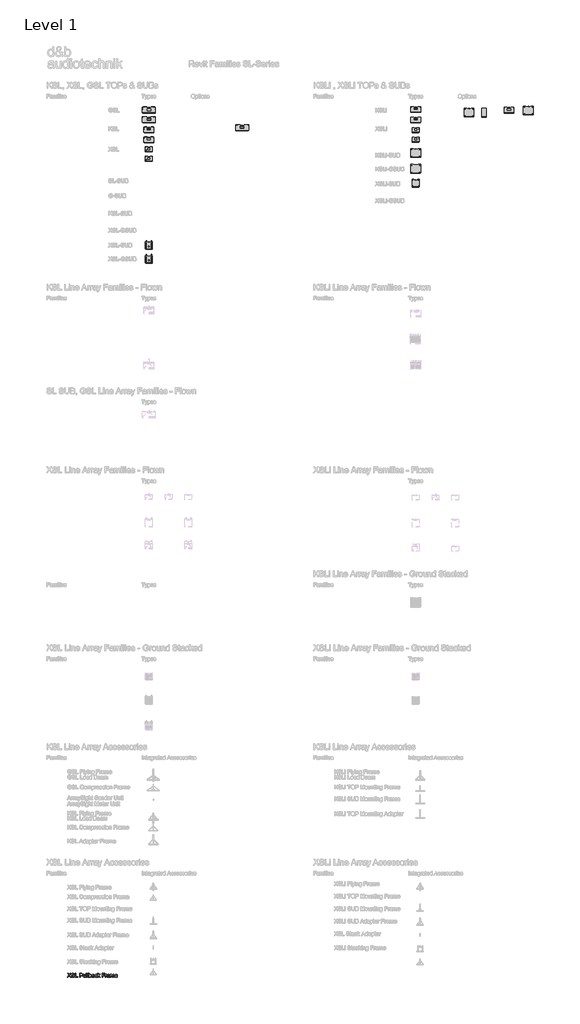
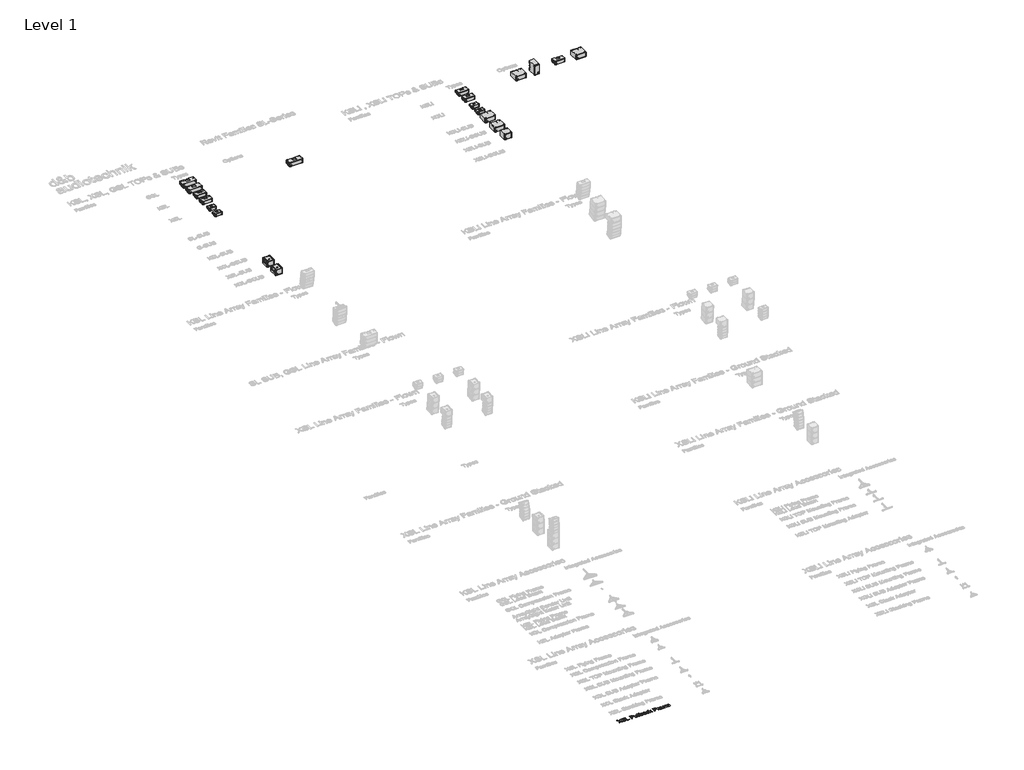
# One storey, part 4 of 52: 21 proxies.
"""IFC4 building model written with IfcOpenShell, lengths in millimetres."""

from ifc_helpers import new_model, si_unit, origin, origin_with_axes, place, context, project, spatial, polyline, outline, extrude, transform, mapped, element, save
from components import communication_devices_4245e99e, communication_devices_117acdfe, communication_devices_14464fff, communication_devices_1bfed97e, communication_devices_a2a8249f, communication_devices_7ae70bb6, communication_devices_f9809a49, communication_devices_84af1f5c, communication_devices_533f041e, communication_devices_2013cf00, communication_devices_46ae4256, communication_devices_b4759670, gsl12_12c20019, gsl12_814769ea, gsl12_07355197, ksl12_ca8f280e, ksl12_920ca955, ksl12_949d1a2c, xsl_sub_eb40c905, xsl_sub_1e621e3c, xsl_sub_a75d85bd, xsl12_895e49e3, xsl12_576bfbdb, xsl12_ee73a5ce

model = new_model("IFC4")

# Units and contexts
model_context = context("Model", 3, world=origin())
ifc_project = project(units=[si_unit("LENGTHUNIT", "METRE", prefix="MILLI")], contexts=[model_context])

# Site, building, storey
site = spatial("IfcSite", under=ifc_project)
building = spatial("IfcBuilding", under=site)
storey = spatial("IfcBuildingStorey", under=building, Name="Level 1", Elevation=0.0)

# Proxies
placement = place(None, origin())
communication_devices_shape = communication_devices_4245e99e(model_context)
communication_devices_2_shape = communication_devices_117acdfe(model_context)
communication_devices_3_shape = communication_devices_14464fff(model_context)
element("IfcBuildingElementProxy", 1, Name="d&b SL-Series XSLi : XSLi8", ObjectType="d&b SL-Series XSLi : XSLi8", at=placement, inside=storey, context=model_context, shape_type="MappedRepresentation", body=[
    mapped(communication_devices_shape, transform((15758.3565696, 14228.4736413, 0.0), x_axis=(1.0, 0.0, 0.0), y_axis=(0.0, 1.0, 0.0), z_axis=(0.0, 0.0, 1.0))),
    mapped(communication_devices_2_shape, transform((15758.3565696, 14228.4736413, 0.0), x_axis=(1.0, 0.0, 0.0), y_axis=(0.0, 1.0, 0.0), z_axis=(0.0, 0.0, 1.0))),
    mapped(communication_devices_3_shape, transform((15758.3565696, 14228.4736413, 0.0), x_axis=(1.0, 0.0, 0.0), y_axis=(0.0, 1.0, 0.0), z_axis=(0.0, 0.0, 1.0))),
])
element("IfcBuildingElementProxy", 2, Name="d&b SL-Series XSLi : XSLi12", ObjectType="d&b SL-Series XSLi : XSLi12", at=placement, inside=storey, context=model_context, shape_type="MappedRepresentation", body=[
    mapped(communication_devices_shape, transform((15758.3565696, 13267.0006751, 0.0), x_axis=(1.0, 0.0, 0.0), y_axis=(0.0, 1.0, 0.0), z_axis=(0.0, 0.0, 1.0))),
    mapped(communication_devices_2_shape, transform((15758.3565696, 13267.0006751, 0.0), x_axis=(1.0, 0.0, 0.0), y_axis=(0.0, 1.0, 0.0), z_axis=(0.0, 0.0, 1.0))),
    mapped(communication_devices_3_shape, transform((15758.3565696, 13267.0006751, 0.0), x_axis=(1.0, 0.0, 0.0), y_axis=(0.0, 1.0, 0.0), z_axis=(0.0, 0.0, 1.0))),
])
communication_devices_4_shape = communication_devices_1bfed97e(model_context)
element("IfcBuildingElementProxy", 3, Name="d&b SL-Series KSLi-SUB : KSLi-SUB", ObjectType="d&b SL-Series KSLi-SUB : KSLi-SUB", at=placement, inside=storey, context=model_context, shape_type="MappedRepresentation", body=[
    mapped(communication_devices_4_shape, transform((25158.3565696, 15906.3756327, 0.0), x_axis=(1.0, 0.0, 0.0), y_axis=(0.0, 1.0, 0.0), z_axis=(0.0, 0.0, 1.0))),
])
element("IfcBuildingElementProxy", 4, Name="d&b SL-Series KSLi-SUB : KSLi-SUB", ObjectType="d&b SL-Series KSLi-SUB : KSLi-SUB", at=placement, inside=storey, context=model_context, shape_type="MappedRepresentation", body=[
    mapped(communication_devices_4_shape, transform((19145.5333752, 15707.2506327, 0.0), x_axis=(1.0, 0.0, 0.0), y_axis=(0.0, 1.0, 0.0), z_axis=(0.0, 0.0, 1.0))),
])
communication_devices_5_shape = communication_devices_a2a8249f(model_context)
element("IfcBuildingElementProxy", 5, Name="d&b SL-Series KSLi-SUB : KSLi-SUB", ObjectType="d&b SL-Series KSLi-SUB : KSLi-SUB", at=placement, inside=storey, context=model_context, shape_type="MappedRepresentation", body=[
    mapped(communication_devices_5_shape, transform((20658.3565696, 15666.3756327, 0.0), x_axis=(1.0, 0.0, 0.0), y_axis=(0.0, 1.0, 0.0), z_axis=(0.0, 0.0, 1.0))),
])
element("IfcBuildingElementProxy", 6, Name="d&b SL-Series KSLi-SUB : KSLi-SUB", ObjectType="d&b SL-Series KSLi-SUB : KSLi-SUB", at=placement, inside=storey, context=model_context, shape_type="MappedRepresentation", body=[
    mapped(communication_devices_4_shape, transform((13758.3565696, 11606.3756327, 0.0), x_axis=(1.0, 0.0, 0.0), y_axis=(0.0, 1.0, 0.0), z_axis=(0.0, 0.0, 1.0))),
])
communication_devices_6_shape = communication_devices_7ae70bb6(model_context)
element("IfcBuildingElementProxy", 7, Name="d&b SL-Series KSLi-GSUB : KSLi-GSUB", ObjectType="d&b SL-Series KSLi-GSUB : KSLi-GSUB", at=placement, inside=storey, context=model_context, shape_type="MappedRepresentation", body=[
    mapped(communication_devices_6_shape, transform((13758.3565696, 10007.2506327, 0.0), x_axis=(1.0, 0.0, 0.0), y_axis=(0.0, 1.0, 0.0), z_axis=(0.0, 0.0, 1.0))),
])
communication_devices_7_shape = communication_devices_f9809a49(model_context)
element("IfcBuildingElementProxy", 8, Name="d&b SL-Series XSLi-SUB : XSLi-SUB", ObjectType="d&b SL-Series XSLi-SUB : XSLi-SUB", at=placement, inside=storey, context=model_context, shape_type="MappedRepresentation", body=[
    mapped(communication_devices_7_shape, transform((13758.3565696, 8407.2506327, 0.0), x_axis=(1.0, 0.0, 0.0), y_axis=(0.0, 1.0, 0.0), z_axis=(0.0, 0.0, 1.0))),
])
communication_devices_8_shape = communication_devices_84af1f5c(model_context)
communication_devices_9_shape = communication_devices_533f041e(model_context)
communication_devices_10_shape = communication_devices_2013cf00(model_context)
element("IfcBuildingElementProxy", 9, Name="d&b SL-Series XSL-GSUB : XSL-GSUB", ObjectType="d&b SL-Series XSL-GSUB : XSL-GSUB", at=placement, inside=storey, context=model_context, shape_type="MappedRepresentation", body=[
    mapped(communication_devices_8_shape, transform((-13241.6434304, 707.2506327, 0.0), x_axis=(1.0, 0.0, 0.0), y_axis=(0.0, 1.0, 0.0), z_axis=(0.0, 0.0, 1.0))),
    mapped(communication_devices_9_shape, transform((-13241.6434304, 707.2506327, 0.0), x_axis=(1.0, 0.0, 0.0), y_axis=(0.0, 1.0, 0.0), z_axis=(0.0, 0.0, 1.0))),
    mapped(communication_devices_10_shape, transform((-13241.6434304, 707.2506327, 0.0), x_axis=(1.0, 0.0, 0.0), y_axis=(0.0, 1.0, 0.0), z_axis=(0.0, 0.0, 1.0))),
])
communication_devices_11_shape = communication_devices_46ae4256(model_context)
communication_devices_12_shape = communication_devices_b4759670(model_context)
element("IfcBuildingElementProxy", 10, Name="d&b SL-Series KSLi : KSLi8", ObjectType="d&b SL-Series KSLi : KSLi8", at=placement, inside=storey, context=model_context, shape_type="MappedRepresentation", body=[
    mapped(communication_devices_11_shape, transform((25195.5333752, 16207.2506327, 196.4525331), x_axis=(1.0, 0.0, 0.0), y_axis=(0.0, 1.0, 0.0), z_axis=(0.0, 0.0, 1.0))),
    mapped(communication_devices_12_shape, transform((25195.5333752, 16207.2506327, 196.4525331), x_axis=(1.0, 0.0, 0.0), y_axis=(0.0, 1.0, 0.0), z_axis=(0.0, 0.0, 1.0))),
])
element("IfcBuildingElementProxy", 11, Name="d&b SL-Series KSLi : KSLi8", ObjectType="d&b SL-Series KSLi : KSLi8", at=placement, inside=storey, context=model_context, shape_type="MappedRepresentation", body=[
    mapped(communication_devices_11_shape, transform((15758.3565696, 16267.2506327, 196.4525331), x_axis=(1.0, 0.0, 0.0), y_axis=(0.0, 1.0, 0.0), z_axis=(0.0, 0.0, 1.0))),
    mapped(communication_devices_12_shape, transform((15758.3565696, 16267.2506327, 196.4525331), x_axis=(1.0, 0.0, 0.0), y_axis=(0.0, 1.0, 0.0), z_axis=(0.0, 0.0, 1.0))),
])
element("IfcBuildingElementProxy", 12, Name="d&b SL-Series KSLi : KSLi12", ObjectType="d&b SL-Series KSLi : KSLi12", at=placement, inside=storey, context=model_context, shape_type="MappedRepresentation", body=[
    mapped(communication_devices_11_shape, transform((15758.3565696, 15207.2506327, 196.4525331), x_axis=(1.0, 0.0, 0.0), y_axis=(0.0, 1.0, 0.0), z_axis=(0.0, 0.0, 1.0))),
    mapped(communication_devices_12_shape, transform((15758.3565696, 15207.2506327, 196.4525331), x_axis=(1.0, 0.0, 0.0), y_axis=(0.0, 1.0, 0.0), z_axis=(0.0, 0.0, 1.0))),
])
element("IfcBuildingElementProxy", 13, Name="400mm Arial", ObjectType="400mm Arial", at=placement, inside=storey, context=model_context, shape_type="SweptSolid", body=[
    extrude(outline(polyline([(-18995.0211414, -71622.6117308), (-18840.2163979, -71403.6483673), (-18969.9070639, -71220.7864902), (-18909.7706204, -71220.7864902), (-18836.6847307, -71323.7934489), (-18812.0611625, -71363.9171118), (-18783.2192141, -71322.9105321), (-18710.9181393, -71220.7864902), (-18649.7025753, -71220.7864902), (-18779.4913432, -71404.3350804), (-18624.5884978, -71622.6117308), (-18684.8230431, -71622.6117308), (-18788.1243074, -71477.1266645), (-18809.6086159, -71447.0093918), (-18833.0549617, -71480.0697204), (-18933.8055774, -71622.6117308), (-18995.0211414, -71622.6117308)])), origin_with_axes(), (0.0, 0.0, 1.0), 5.0),
    extrude(outline(polyline([(-18593.1959008, -71484.4843044), (-18542.9677458, -71484.4843044), (-18537.2042612, -71512.3574969), (-18526.780938, -71534.7615104), (-18510.5205538, -71552.5424735), (-18487.2458862, -71566.5465148), (-18458.7963453, -71575.6332001), (-18427.0113409, -71578.6620952), (-18399.0277838, -71576.3689641), (-18374.5268429, -71569.4895707), (-18354.6734779, -71558.6002637), (-18340.6326484, -71544.2773913), (-18332.2817271, -71527.8330662), (-18329.4980867, -71510.5794006), (-18331.5827513, -71493.7671934), (-18337.8367453, -71479.2358546), (-18350.5409368, -71466.8382314), (-18371.9761944, -71456.4271709), (-18445.1111351, -71437.2482562), (-18493.1197354, -71424.5563274), (-18523.837882, -71412.4775352), (-18548.841595, -71395.5794889), (-18566.5612444, -71375.1007245), (-18577.1194577, -71351.4827004), (-18580.6388621, -71325.166875), (-18576.2855918, -71295.7485781), (-18563.225781, -71268.316844), (-18541.8027861, -71245.0667019), (-18512.3599638, -71228.1931811), (-18477.0187668, -71217.9292734), (-18437.9006479, -71214.5079709), (-18395.5206421, -71218.0886889), (-18358.438137, -71228.8308432), (-18327.9775078, -71246.5137044), (-18305.4631297, -71270.9165435), (-18291.2138337, -71300.5187813), (-18285.548451, -71333.7998392), (-18335.7766061, -71333.7998392), (-18344.9981814, -71303.8297193), (-18353.3613655, -71291.9716563), (-18364.226147, -71282.198258), (-18394.2698433, -71269.1016589), (-18435.9386106, -71264.7361259), (-18478.5883966, -71269.052608), (-18494.8917004, -71274.4482106), (-18507.847278, -71282.0020542), (-18524.7698497, -71301.0583416), (-18530.410707, -71323.695347), (-18526.413056, -71342.996889), (-18514.4201029, -71358.5215092), (-18486.0686638, -71372.4029232), (-18432.4069435, -71386.5786427), (-18377.0284405, -71400.0431238), (-18343.5266535, -71411.7908221), (-18314.8931715, -71430.0132436), (-18294.9171792, -71452.5030963), (-18283.1817435, -71479.0151254), (-18279.2699316, -71509.3040763), (-18283.7703547, -71540.2674776), (-18297.2716239, -71569.3914689), (-18319.2219163, -71594.4564955), (-18349.0694088, -71613.2430027), (-18384.9624288, -71624.9784383), (-18425.0493036, -71628.8902502), (-18474.2596518, -71624.67187), (-18514.7634595, -71612.0167294), (-18547.0267105, -71590.8757774), (-18571.5153886, -71561.1999631), (-18587.2362125, -71525.0494257), (-18593.1959008, -71484.4843044)])), origin_with_axes(), (0.0, 0.0, 1.0), 5.0),
    extrude(outline(polyline([(-18203.927699, -71622.6117308), (-18203.927699, -71220.7864902), (-18153.6995439, -71220.7864902), (-18153.6995439, -71572.3835758), (-17952.7869236, -71572.3835758), (-17952.7869236, -71622.6117308), (-18203.927699, -71622.6117308)])), origin_with_axes(), (0.0, 0.0, 1.0), 5.0),
    extrude(outline(polyline([(-17739.3172646, -71622.6117308), (-17739.3172646, -71220.7864902), (-17590.3986329, -71220.7864902), (-17530.3602913, -71224.612463), (-17503.5907448, -71231.7616364), (-17481.5546133, -71243.3989702), (-17463.8104384, -71260.0517619), (-17449.9167617, -71282.2473089), (-17440.940441, -71308.4282442), (-17437.9483341, -71337.0372007), (-17439.9686194, -71361.7036885), (-17446.0294753, -71384.3958762), (-17456.1309017, -71405.1137639), (-17470.2728988, -71423.8573516), (-17489.6878711, -71439.3942345), (-17515.6082233, -71450.492008), (-17548.0339555, -71457.1506721), (-17586.9650676, -71459.3702269), (-17689.0891095, -71459.3702269), (-17689.0891095, -71622.6117308), (-17739.3172646, -71622.6117308)]), holes=[polyline([(-17689.0891095, -71409.1420718), (-17584.0220117, -71409.1420718), (-17539.4837648, -71404.5312841), (-17522.8800241, -71398.7677995), (-17510.0532052, -71390.6989211), (-17500.4821419, -71380.5392467), (-17493.6456682, -71368.503374), (-17488.1764892, -71338.8030343), (-17491.401588, -71316.2396053), (-17501.0768845, -71297.2078434), (-17516.0006308, -71282.884971), (-17534.971079, -71274.4482106), (-17585.1992341, -71271.0146453), (-17689.0891095, -71271.0146453), (-17689.0891095, -71409.1420718)])]), origin_with_axes(), (0.0, 0.0, 1.0), 5.0),
    extrude(outline(polyline([(-17186.8075588, -71622.6117308), (-17186.8075588, -71571.8930664), (-17204.9809293, -71596.8293344), (-17226.1464068, -71614.6409543), (-17250.3039911, -71625.3279262), (-17277.4536824, -71628.8902502), (-17301.917835, -71626.3886527), (-17324.6897305, -71618.88386), (-17343.7950688, -71607.6021454), (-17357.2595498, -71593.7697824), (-17366.3217097, -71576.969838), (-17372.2200843, -71556.7853792), (-17375.1631403, -71510.0888913), (-17375.1631403, -71327.5213198), (-17324.9349852, -71327.5213198), (-17324.9349852, -71486.4463417), (-17321.8938274, -71537.6555154), (-17314.5729757, -71554.7375027), (-17302.0281996, -71567.7237372), (-17285.0933651, -71575.9275057), (-17264.602338, -71578.6620952), (-17242.9340885, -71575.866192), (-17222.6637905, -71567.4784825), (-17205.9496852, -71554.2715189), (-17194.9500136, -71537.0178533), (-17188.8431725, -71513.3875665), (-17186.8075588, -71481.0507391), (-17186.8075588, -71327.5213198), (-17136.5794037, -71327.5213198), (-17136.5794037, -71622.6117308), (-17186.8075588, -71622.6117308)])), origin_with_axes(), (0.0, 0.0, 1.0), 5.0),
    extrude(outline(polyline([(-17067.5156904, -71622.6117308), (-17067.5156904, -71220.7864902), (-17017.2875354, -71220.7864902), (-17017.2875354, -71622.6117308), (-17067.5156904, -71622.6117308)])), origin_with_axes(), (0.0, 0.0, 1.0), 5.0),
    extrude(outline(polyline([(-16941.9453028, -71622.6117308), (-16941.9453028, -71220.7864902), (-16891.7171477, -71220.7864902), (-16891.7171477, -71622.6117308), (-16941.9453028, -71622.6117308)])), origin_with_axes(), (0.0, 0.0, 1.0), 5.0),
    extrude(outline(polyline([(-16766.14676, -71622.6117308), (-16816.3749151, -71622.6117308), (-16816.3749151, -71220.7864902), (-16766.14676, -71220.7864902), (-16766.14676, -71369.8032238), (-16749.6288584, -71348.5580385), (-16730.9772413, -71333.3829062), (-16710.1919085, -71324.2778269), (-16687.2728602, -71321.2428004), (-16661.3984932, -71323.9773899), (-16636.9466033, -71332.1811584), (-16615.315142, -71345.3390711), (-16597.9020609, -71362.9360932), (-16584.2536389, -71384.8005464), (-16573.9161548, -71410.7607526), (-16567.4046435, -71439.737591), (-16565.2341397, -71470.6519414), (-16567.4812856, -71506.3242322), (-16574.2227231, -71537.7045664), (-16585.4584524, -71564.7929439), (-16601.1884734, -71587.5893649), (-16620.0700168, -71605.6585022), (-16640.7603133, -71618.5650289), (-16663.259363, -71626.3089449), (-16687.5671658, -71628.8902502), (-16711.2403722, -71625.5609182), (-16732.22804, -71615.572922), (-16750.5301693, -71598.9262617), (-16766.14676, -71575.6209373), (-16766.14676, -71622.6117308)]), holes=[polyline([(-16766.14676, -71473.0063861), (-16762.7131947, -71514.8958827), (-16752.4124988, -71543.2473218), (-16740.2417362, -71558.7412851), (-16726.0966735, -71569.8084018), (-16709.9773107, -71576.4486718), (-16691.8836479, -71578.6620952), (-16676.8617998, -71577.0311516), (-16662.8945467, -71572.1383211), (-16649.9818887, -71563.9836035), (-16638.1238257, -71552.566999), (-16628.2094059, -71537.9191642), (-16621.1276775, -71520.0707561), (-16616.8786405, -71499.0217746), (-16615.4622948, -71474.7722197), (-16620.8946856, -71428.8114958), (-16627.6851741, -71411.01827), (-16637.191858, -71396.6831349), (-16648.623791, -71385.6528064), (-16661.1900268, -71377.7740003), (-16674.8905654, -71373.0467167), (-16689.7254069, -71371.4709555), (-16704.747255, -71373.101899), (-16718.7145081, -71377.9947295), (-16731.6271661, -71386.1494471), (-16743.4852291, -71397.5660517), (-16753.3996489, -71412.0667336), (-16760.4813773, -71429.4736834), (-16764.7304143, -71449.7869009), (-16766.14676, -71473.0063861)])]), origin_with_axes(), (0.0, 0.0, 1.0), 5.0),
    extrude(outline(polyline([(-16320.3718837, -71584.9406145), (-16344.3700525, -71605.5174808), (-16369.0794599, -71618.9819618), (-16395.0641915, -71626.4131781), (-16422.888333, -71628.8902502), (-16445.2524927, -71627.4003281), (-16464.8636687, -71622.9305619), (-16481.7218611, -71615.4809515), (-16495.8270699, -71605.0514969), (-16506.9646973, -71592.3043858), (-16514.9201455, -71577.9018057), (-16519.6934144, -71561.8437566), (-16521.284504, -71544.1302385), (-16518.8810083, -71523.3081176), (-16511.6705212, -71504.3989831), (-16500.5482222, -71488.2121753), (-16486.4092909, -71475.5570346), (-16469.7932874, -71465.9921028), (-16451.2397721, -71459.0759213), (-16407.7806458, -71451.5220776), (-16356.4243192, -71443.5758265), (-16320.6661893, -71434.2561493), (-16320.3718837, -71423.0725367), (-16323.8299745, -71400.6562604), (-16334.2042467, -71385.9900315), (-16357.4053379, -71375.1007245), (-16389.7299025, -71371.4709555), (-16419.6509715, -71373.8867139), (-16440.5466688, -71381.1339892), (-16454.7959647, -71394.5371566), (-16464.7778296, -71415.4205912), (-16515.0059846, -71409.1420718), (-16506.2871813, -71381.6735495), (-16493.2764214, -71360.0911391), (-16474.7596944, -71343.5855002), (-16449.5229895, -71331.3472925), (-16418.6576901, -71323.7689234), (-16383.2551794, -71321.2428004), (-16349.2996713, -71323.4746178), (-16322.382972, -71330.1700701), (-16302.0881485, -71340.2377741), (-16287.9982681, -71352.5863464), (-16278.6540655, -71367.8534492), (-16272.5962753, -71386.6767446), (-16270.1437286, -71430.6263803), (-16270.1437286, -71493.1172685), (-16267.5930801, -71580.3788778), (-16257.5866899, -71622.6117308), (-16307.8148449, -71622.6117308), (-16315.8591979, -71605.1495988), (-16320.3718837, -71584.9406145)]), holes=[polyline([(-16320.3718837, -71484.4843044), (-16354.1189254, -71492.8474884), (-16401.4040245, -71499.8862973), (-16444.6178962, -71508.0287521), (-16455.8628225, -71513.5960329), (-16464.1892184, -71521.2725039), (-16469.3395663, -71530.4695538), (-16471.0563489, -71540.5985714), (-16467.3162153, -71555.5345804), (-16456.0958145, -71567.7727881), (-16437.640401, -71575.9397684), (-16412.1952297, -71578.6620952), (-16385.2172167, -71575.6577255), (-16361.3784634, -71566.6446166), (-16342.052396, -71553.3640766), (-16328.6124404, -71537.5574136), (-16322.6527521, -71521.2725039), (-16320.6661893, -71498.7090749), (-16320.3718837, -71484.4843044)])]), origin_with_axes(), (0.0, 0.0, 1.0), 5.0),
    extrude(outline(polyline([(-16012.7244339, -71515.8769013), (-15962.4962788, -71522.1554207), (-15967.9593264, -71545.8562182), (-15976.5003201, -71566.8285576), (-15988.1192598, -71585.0724389), (-16002.8161455, -71600.5878621), (-16019.9717092, -71612.9701569), (-16038.9666829, -71621.8146532), (-16059.8010665, -71627.121351), (-16082.4748602, -71628.8902502), (-16110.6454239, -71626.4223752), (-16135.9035886, -71619.01875), (-16158.2493541, -71606.6793748), (-16177.6827205, -71589.4042494), (-16193.4127415, -71567.5183364), (-16204.6484708, -71541.3465981), (-16211.3899083, -71510.8890346), (-16213.6370542, -71476.1456458), (-16209.7988187, -71431.4479834), (-16198.2841122, -71392.7100093), (-16178.9089938, -71361.427777), (-16151.4895225, -71339.0973399), (-16118.6867112, -71325.7064353), (-16083.1615732, -71321.2428004), (-16060.8771214, -71322.775642), (-16040.7202537, -71327.374167), (-16022.6909703, -71335.0383752), (-16006.789271, -71345.7682667), (-15993.2849361, -71359.3185869), (-15982.4477457, -71375.444081), (-15974.2776997, -71394.1447491), (-15968.7747982, -71415.4205912), (-16019.0029533, -71421.6991105), (-16028.114164, -71399.7856064), (-16042.3021463, -71384.0770452), (-16060.7820852, -71374.6224779), (-16082.7691658, -71371.4709555), (-16099.8358247, -71373.0221912), (-16115.2286205, -71377.6758985), (-16128.9475532, -71385.4320772), (-16140.9926229, -71396.2907274), (-16150.7997437, -71410.5032352), (-16157.80483, -71428.3209865), (-16162.0078818, -71449.7439813), (-16163.4088991, -71474.7722197), (-16157.9274574, -71521.8488524), (-16151.0756552, -71539.7861653), (-16141.4831322, -71553.989476), (-16129.6771858, -71564.7837469), (-16116.1851137, -71572.4939404), (-16101.0069157, -71577.1200565), (-16084.1425919, -71578.6620952), (-16058.1333348, -71574.8115969), (-16036.8084418, -71563.2601023), (-16021.2960844, -71543.7133056), (-16012.7244339, -71515.8769013)])), origin_with_axes(), (0.0, 0.0, 1.0), 5.0),
    extrude(outline(polyline([(-15918.5466431, -71622.6117308), (-15918.5466431, -71220.7864902), (-15868.318488, -71220.7864902), (-15868.318488, -71436.7086959), (-15755.6975466, -71327.5213198), (-15686.2414259, -71327.5213198), (-15800.3338953, -71438.0821221), (-15679.9629065, -71622.6117308), (-15738.627822, -71622.6117308), (-15836.3372799, -71473.0063861), (-15868.318488, -71504.1046775), (-15868.318488, -71622.6117308), (-15918.5466431, -71622.6117308)])), origin_with_axes(), (0.0, 0.0, 1.0), 5.0),
    extrude(outline(polyline([(-15472.7717668, -71622.6117308), (-15472.7717668, -71220.7864902), (-15202.7954333, -71220.7864902), (-15202.7954333, -71271.0146453), (-15422.5436117, -71271.0146453), (-15422.5436117, -71390.3065136), (-15234.1880302, -71390.3065136), (-15234.1880302, -71440.5346687), (-15422.5436117, -71440.5346687), (-15422.5436117, -71622.6117308), (-15472.7717668, -71622.6117308)])), origin_with_axes(), (0.0, 0.0, 1.0), 5.0),
    extrude(outline(polyline([(-15140.0102395, -71622.6117308), (-15140.0102395, -71327.5213198), (-15096.0606038, -71327.5213198), (-15096.0606038, -71371.1766499), (-15079.824745, -71345.8663686), (-15064.8642106, -71330.9548851), (-15049.8546252, -71323.6708216), (-15033.4716136, -71321.2428004), (-15008.455638, -71325.1178241), (-14983.0472548, -71336.7428951), (-14999.8226738, -71381.7716513), (-15017.4810096, -71374.0461294), (-15035.1393454, -71371.4709555), (-15050.136668, -71373.9480276), (-15063.5398354, -71381.3792439), (-15074.3678288, -71393.2005187), (-15081.6396296, -71408.8477662), (-15087.7464707, -71436.9048997), (-15089.7820844, -71467.5126817), (-15089.7820844, -71622.6117308), (-15140.0102395, -71622.6117308)])), origin_with_axes(), (0.0, 0.0, 1.0), 5.0),
    extrude(outline(polyline([(-14763.2990764, -71584.9406145), (-14787.2972452, -71605.5174808), (-14812.0066526, -71618.9819618), (-14837.9913841, -71626.4131781), (-14865.8155257, -71628.8902502), (-14888.1796853, -71627.4003281), (-14907.7908614, -71622.9305619), (-14924.6490538, -71615.4809515), (-14938.7542626, -71605.0514969), (-14949.89189, -71592.3043858), (-14957.8473382, -71577.9018057), (-14962.6206071, -71561.8437566), (-14964.2116967, -71544.1302385), (-14961.808201, -71523.3081176), (-14954.5977139, -71504.3989831), (-14943.4754149, -71488.2121753), (-14929.3364835, -71475.5570346), (-14912.7204801, -71465.9921028), (-14894.1669648, -71459.0759213), (-14850.7078384, -71451.5220776), (-14799.3515119, -71443.5758265), (-14763.593382, -71434.2561493), (-14763.2990764, -71423.0725367), (-14766.7571671, -71400.6562604), (-14777.1314394, -71385.9900315), (-14800.3325306, -71375.1007245), (-14832.6570952, -71371.4709555), (-14862.5781642, -71373.8867139), (-14883.4738615, -71381.1339892), (-14897.7231574, -71394.5371566), (-14907.7050222, -71415.4205912), (-14957.9331773, -71409.1420718), (-14949.214374, -71381.6735495), (-14936.2036141, -71360.0911391), (-14917.686887, -71343.5855002), (-14892.4501822, -71331.3472925), (-14861.5848828, -71323.7689234), (-14826.1823721, -71321.2428004), (-14792.2268639, -71323.4746178), (-14765.3101646, -71330.1700701), (-14745.0153412, -71340.2377741), (-14730.9254608, -71352.5863464), (-14721.5812581, -71367.8534492), (-14715.523468, -71386.6767446), (-14713.0709213, -71430.6263803), (-14713.0709213, -71493.1172685), (-14710.5202728, -71580.3788778), (-14700.5138825, -71622.6117308), (-14750.7420376, -71622.6117308), (-14758.7863906, -71605.1495988), (-14763.2990764, -71584.9406145)]), holes=[polyline([(-14763.2990764, -71484.4843044), (-14797.0461181, -71492.8474884), (-14844.3312172, -71499.8862973), (-14887.5450889, -71508.0287521), (-14898.7900152, -71513.5960329), (-14907.116411, -71521.2725039), (-14912.266759, -71530.4695538), (-14913.9835416, -71540.5985714), (-14910.243408, -71555.5345804), (-14899.0230071, -71567.7727881), (-14880.5675937, -71575.9397684), (-14855.1224224, -71578.6620952), (-14828.1444094, -71575.6577255), (-14804.3056561, -71566.6446166), (-14784.9795886, -71553.3640766), (-14771.5396331, -71537.5574136), (-14765.5799448, -71521.2725039), (-14763.593382, -71498.7090749), (-14763.2990764, -71484.4843044)])]), origin_with_axes(), (0.0, 0.0, 1.0), 5.0),
    extrude(outline(polyline([(-14644.0072081, -71622.6117308), (-14644.0072081, -71327.5213198), (-14593.779053, -71327.5213198), (-14593.779053, -71376.0817431), (-14578.6713657, -71353.7758315), (-14559.2471964, -71336.3014367), (-14536.1687326, -71325.0074595), (-14510.0981618, -71321.2428004), (-14482.1636557, -71325.0810359), (-14459.7719049, -71336.5957423), (-14443.0455369, -71355.0266303), (-14432.1071789, -71379.6134103), (-14413.7989182, -71354.0762685), (-14392.9154836, -71335.8354529), (-14369.4568751, -71324.8909635), (-14343.4230926, -71321.2428004), (-14323.3152758, -71322.7603136), (-14305.6661371, -71327.3128533), (-14290.4756764, -71334.9004195), (-14277.7438937, -71345.5230121), (-14267.6792554, -71359.3032585), (-14260.4902281, -71376.363786), (-14256.1768117, -71396.7045947), (-14254.7390063, -71420.3256844), (-14254.7390063, -71622.6117308), (-14304.9671613, -71622.6117308), (-14304.9671613, -71441.9080948), (-14306.132121, -71416.8553309), (-14309.6269999, -71399.9695474), (-14316.1752995, -71388.40579), (-14326.5005208, -71379.3191047), (-14339.7810608, -71373.4329928), (-14355.1953164, -71371.4709555), (-14382.4063213, -71376.4986761), (-14404.5896056, -71391.5818379), (-14413.1949786, -71403.1517266), (-14419.3416736, -71417.7505105), (-14424.2590296, -71456.0347634), (-14424.2590296, -71622.6117308), (-14474.4871847, -71622.6117308), (-14474.4871847, -71436.3162885), (-14477.3934525, -71407.9157985), (-14486.1122558, -71387.6577633), (-14501.452935, -71375.5176574), (-14524.2248305, -71371.4709555), (-14543.5754234, -71374.1687568), (-14561.4054374, -71382.2621607), (-14576.1207172, -71395.5549634), (-14586.1271075, -71413.8509613), (-14591.8660666, -71439.234819), (-14593.779053, -71473.7912011), (-14593.779053, -71622.6117308), (-14644.0072081, -71622.6117308)])), origin_with_axes(), (0.0, 0.0, 1.0), 5.0),
    extrude(outline(polyline([(-13972.7942452, -71534.7124595), (-13923.5471087, -71540.9909788), (-13931.0978867, -71560.7155852), (-13941.2912836, -71578.0980094), (-13954.1272996, -71593.1382517), (-13969.6059345, -71605.8363119), (-13987.5677729, -71615.9224099), (-14007.8533993, -71623.1267656), (-14055.3960158, -71628.8902502), (-14086.5617522, -71626.4039811), (-14114.3307114, -71618.9451736), (-14138.7028936, -71606.5138279), (-14159.6782987, -71589.1099438), (-14176.5456882, -71567.2178994), (-14188.5938235, -71541.3220726), (-14195.8227047, -71511.4224635), (-14198.2323318, -71477.5190719), (-14195.7981793, -71442.4660492), (-14188.4957217, -71411.5700929), (-14176.324959, -71384.8312033), (-14159.2858912, -71362.2493801), (-14138.3656685, -71344.3090015), (-14114.5514406, -71331.4944453), (-14087.8432078, -71323.8057116), (-14058.2409699, -71321.2428004), (-14029.5921595, -71323.7995803), (-14003.68407, -71331.4699199), (-13980.5167014, -71344.2538192), (-13960.0900536, -71362.1512783), (-13943.4158022, -71384.6840505), (-13931.5056226, -71411.3738892), (-13924.3595148, -71442.2207945), (-13921.9774789, -71477.2247664), (-13922.2717845, -71490.7628238), (-14148.0041767, -71490.7628238), (-14145.0948433, -71510.8062611), (-14139.3098989, -71528.3603637), (-14130.6493436, -71543.4251314), (-14119.1131774, -71556.0005643), (-14105.3390623, -71565.914984), (-14089.9646606, -71572.9967124), (-14054.4149972, -71578.6620952), (-14027.6822388, -71576.0378703), (-14005.1678607, -71568.1651956), (-13986.8718628, -71554.5535617), (-13972.7942452, -71534.7124595)]), holes=[polyline([(-14148.0041767, -71440.5346687), (-13972.205634, -71440.5346687), (-13978.9991881, -71413.9981141), (-13992.3165164, -71395.0154032), (-14006.0139893, -71384.7147073), (-14021.5999232, -71377.3570674), (-14039.074318, -71372.9424835), (-14058.4371736, -71371.4709555), (-14092.2945799, -71376.1675823), (-14120.2903998, -71390.2574627), (-14139.7513573, -71412.2200178), (-14148.0041767, -71440.5346687)])]), origin_with_axes(), (0.0, 0.0, 1.0), 5.0),
])
gsl12_shape = gsl12_12c20019(model_context)
gsl12_2_shape = gsl12_814769ea(model_context)
gsl12_3_shape = gsl12_07355197(model_context)
element("IfcBuildingElementProxy", 14, Name="d&b SL-Series GSL : GSL12", ObjectType="d&b SL-Series GSL : GSL12", at=placement, inside=storey, context=model_context, shape_type="MappedRepresentation", body=[
    mapped(gsl12_shape, transform((-11241.6434304, 15207.2506327, 196.4525331), x_axis=(1.0, 0.0, 0.0), y_axis=(0.0, 1.0, 0.0), z_axis=(0.0, 0.0, 1.0))),
    mapped(gsl12_2_shape, transform((-11241.6434304, 15207.2506327, 196.4525331), x_axis=(1.0, 0.0, 0.0), y_axis=(0.0, 1.0, 0.0), z_axis=(0.0, 0.0, 1.0))),
    mapped(gsl12_3_shape, transform((-11241.6434304, 15207.2506327, 196.4525331), x_axis=(1.0, 0.0, 0.0), y_axis=(0.0, 1.0, 0.0), z_axis=(0.0, 0.0, 1.0))),
])
element("IfcBuildingElementProxy", 15, Name="d&b SL-Series GSL : GSL8", ObjectType="d&b SL-Series GSL : GSL8", at=placement, inside=storey, context=model_context, shape_type="MappedRepresentation", body=[
    mapped(gsl12_shape, transform((-1804.4666248, 14407.2506327, 196.4525331), x_axis=(1.0, 0.0, 0.0), y_axis=(0.0, 1.0, 0.0), z_axis=(0.0, 0.0, 1.0))),
    mapped(gsl12_2_shape, transform((-1804.4666248, 14407.2506327, 196.4525331), x_axis=(1.0, 0.0, 0.0), y_axis=(0.0, 1.0, 0.0), z_axis=(0.0, 0.0, 1.0))),
    mapped(gsl12_3_shape, transform((-1804.4666248, 14407.2506327, 196.4525331), x_axis=(1.0, 0.0, 0.0), y_axis=(0.0, 1.0, 0.0), z_axis=(0.0, 0.0, 1.0))),
])
element("IfcBuildingElementProxy", 16, Name="d&b SL-Series GSL : GSL8", ObjectType="d&b SL-Series GSL : GSL8", at=placement, inside=storey, context=model_context, shape_type="MappedRepresentation", body=[
    mapped(gsl12_shape, transform((-11241.6434304, 16207.2506327, 196.4525331), x_axis=(1.0, 0.0, 0.0), y_axis=(0.0, 1.0, 0.0), z_axis=(0.0, 0.0, 1.0))),
    mapped(gsl12_2_shape, transform((-11241.6434304, 16207.2506327, 196.4525331), x_axis=(1.0, 0.0, 0.0), y_axis=(0.0, 1.0, 0.0), z_axis=(0.0, 0.0, 1.0))),
    mapped(gsl12_3_shape, transform((-11241.6434304, 16207.2506327, 196.4525331), x_axis=(1.0, 0.0, 0.0), y_axis=(0.0, 1.0, 0.0), z_axis=(0.0, 0.0, 1.0))),
])
ksl12_shape = ksl12_ca8f280e(model_context)
ksl12_2_shape = ksl12_920ca955(model_context)
ksl12_3_shape = ksl12_949d1a2c(model_context)
element("IfcBuildingElementProxy", 17, Name="d&b SL-Series KSL : KSL12", ObjectType="d&b SL-Series KSL : KSL12", at=placement, inside=storey, context=model_context, shape_type="MappedRepresentation", body=[
    mapped(ksl12_shape, transform((-11241.6434304, 13207.2506327, 196.4525331), x_axis=(1.0, 0.0, 0.0), y_axis=(0.0, 1.0, 0.0), z_axis=(0.0, 0.0, 1.0))),
    mapped(ksl12_2_shape, transform((-11241.6434304, 13207.2506327, 196.4525331), x_axis=(1.0, 0.0, 0.0), y_axis=(0.0, 1.0, 0.0), z_axis=(0.0, 0.0, 1.0))),
    mapped(ksl12_3_shape, transform((-11241.6434304, 13207.2506327, 196.4525331), x_axis=(1.0, 0.0, 0.0), y_axis=(0.0, 1.0, 0.0), z_axis=(0.0, 0.0, 1.0))),
])
element("IfcBuildingElementProxy", 18, Name="d&b SL-Series KSL : KSL8", ObjectType="d&b SL-Series KSL : KSL8", at=placement, inside=storey, context=model_context, shape_type="MappedRepresentation", body=[
    mapped(ksl12_shape, transform((-11241.6434304, 14207.2506327, 196.4525331), x_axis=(1.0, 0.0, 0.0), y_axis=(0.0, 1.0, 0.0), z_axis=(0.0, 0.0, 1.0))),
    mapped(ksl12_2_shape, transform((-11241.6434304, 14207.2506327, 196.4525331), x_axis=(1.0, 0.0, 0.0), y_axis=(0.0, 1.0, 0.0), z_axis=(0.0, 0.0, 1.0))),
    mapped(ksl12_3_shape, transform((-11241.6434304, 14207.2506327, 196.4525331), x_axis=(1.0, 0.0, 0.0), y_axis=(0.0, 1.0, 0.0), z_axis=(0.0, 0.0, 1.0))),
])
xsl_sub_shape = xsl_sub_eb40c905(model_context)
xsl_sub_2_shape = xsl_sub_1e621e3c(model_context)
xsl_sub_3_shape = xsl_sub_a75d85bd(model_context)
element("IfcBuildingElementProxy", 19, Name="d&b SL-Series XSL-SUB : XSL-SUB", ObjectType="d&b SL-Series XSL-SUB : XSL-SUB", at=placement, inside=storey, context=model_context, shape_type="MappedRepresentation", body=[
    mapped(xsl_sub_shape, transform((-13241.6434304, 2107.2506327, 0.0), x_axis=(1.0, 0.0, 0.0), y_axis=(0.0, 1.0, 0.0), z_axis=(0.0, 0.0, 1.0))),
    mapped(xsl_sub_2_shape, transform((-13241.6434304, 2107.2506327, 0.0), x_axis=(1.0, 0.0, 0.0), y_axis=(0.0, 1.0, 0.0), z_axis=(0.0, 0.0, 1.0))),
    mapped(xsl_sub_3_shape, transform((-13241.6434304, 2107.2506327, 0.0), x_axis=(1.0, 0.0, 0.0), y_axis=(0.0, 1.0, 0.0), z_axis=(0.0, 0.0, 1.0))),
])
xsl12_shape = xsl12_895e49e3(model_context)
xsl12_2_shape = xsl12_576bfbdb(model_context)
xsl12_3_shape = xsl12_ee73a5ce(model_context)
element("IfcBuildingElementProxy", 20, Name="d&b SL-Series XSL : XSL12", ObjectType="d&b SL-Series XSL : XSL12", at=placement, inside=storey, context=model_context, shape_type="MappedRepresentation", body=[
    mapped(xsl12_shape, transform((-11241.6434304, 11307.2506327, 0.0), x_axis=(1.0, 0.0, 0.0), y_axis=(0.0, 1.0, 0.0), z_axis=(0.0, 0.0, 1.0))),
    mapped(xsl12_2_shape, transform((-11241.6434304, 11307.2506327, 0.0), x_axis=(1.0, 0.0, 0.0), y_axis=(0.0, 1.0, 0.0), z_axis=(0.0, 0.0, 1.0))),
    mapped(xsl12_3_shape, transform((-11241.6434304, 11307.2506327, 0.0), x_axis=(1.0, 0.0, 0.0), y_axis=(0.0, 1.0, 0.0), z_axis=(0.0, 0.0, 1.0))),
])
element("IfcBuildingElementProxy", 21, Name="d&b SL-Series XSL : XSL8", ObjectType="d&b SL-Series XSL : XSL8", at=placement, inside=storey, context=model_context, shape_type="MappedRepresentation", body=[
    mapped(xsl12_shape, transform((-11241.6434304, 12268.7235989, 0.0), x_axis=(1.0, 0.0, 0.0), y_axis=(0.0, 1.0, 0.0), z_axis=(0.0, 0.0, 1.0))),
    mapped(xsl12_2_shape, transform((-11241.6434304, 12268.7235989, 0.0), x_axis=(1.0, 0.0, 0.0), y_axis=(0.0, 1.0, 0.0), z_axis=(0.0, 0.0, 1.0))),
    mapped(xsl12_3_shape, transform((-11241.6434304, 12268.7235989, 0.0), x_axis=(1.0, 0.0, 0.0), y_axis=(0.0, 1.0, 0.0), z_axis=(0.0, 0.0, 1.0))),
])

save(model, "model.ifc")
